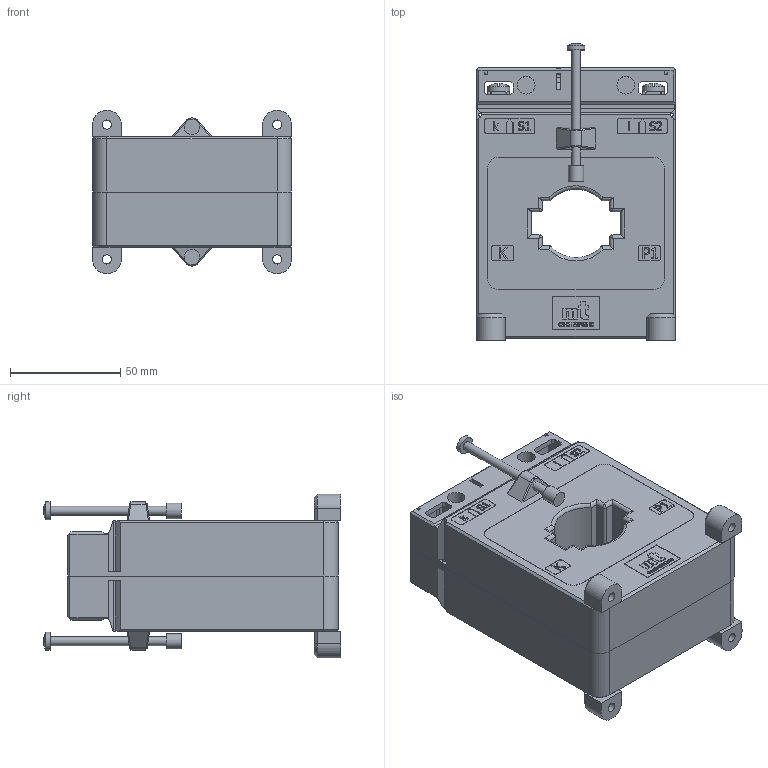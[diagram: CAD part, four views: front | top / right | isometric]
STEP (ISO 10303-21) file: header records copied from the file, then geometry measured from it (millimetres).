
FILE_DESCRIPTION(/* description */ (''),/* implementation_level */ '2;1');
FILE_NAME(/* name */ 'CLB 4.92.step',/* time_stamp */ '2024-10-12T13:53:50+02:00',/* author */ ('peter'),/* organization */ (''),/* preprocessor_version */ 'ST-DEVELOPER v20',/* originating_system */ 'Autodesk Inventor 2025',/* authorisation */ '');
FILE_SCHEMA (('AUTOMOTIVE_DESIGN { 1 0 10303 214 3 1 1 }'));
Length unit declared in the file: millimetre
Products named in the file (11): Current transformer CLB 4.92; Front plastic case CLB 4.92; Back plastic case CLB 4.92; Tape label CLB 4.92; Secondary terminal 28 CLB; Secondary terminal cover 37B CLB; Plastic mounting foot; Rivet 20; Insulating cap; Screw M5x8; Screw 4x60
Assembly tree (23 placements, depth 2):
  Current transformer CLB 4.92
    Front plastic case CLB 4.92
    Back plastic case CLB 4.92
    Tape label CLB 4.92
    Secondary terminal 28 CLB  x2
    Secondary terminal cover 37B CLB  x2
    Plastic mounting foot  x4
    Rivet 20  x4
    Insulating cap  x2
    Screw M5x8  x4
    Screw 4x60  x2
Bounding box: 90 x 134.47 x 74 mm (x, y, z)
Volume: 473089.6 mm3; surface area: 91888.2 mm2
Topology: 23 solids, 27 shells, 1841 faces, 4914 edges, 3218 vertices
Faces by surface type: plane 1151, bspline 390, cylinder 240, cone 38, torus 12, sphere 10
Full cylindrical faces by diameter (mm): 1.5 x4, 2.4 x4, 2.95 x2, 3 x6, 3.5 x2, 4 x8, 4.1 x4, 4.134 x4, 4.2 x4, 4.5 x4, 5 x8, 7 x2, 8 x18, 9 x4, 10 x4
Entity records: 51319 total; most frequent: CARTESIAN_POINT 14068, ORIENTED_EDGE 8368, DIRECTION 6115, EDGE_CURVE 4184, LINE 3007, VECTOR 3007, VERTEX_POINT 2749, EDGE_LOOP 1695
